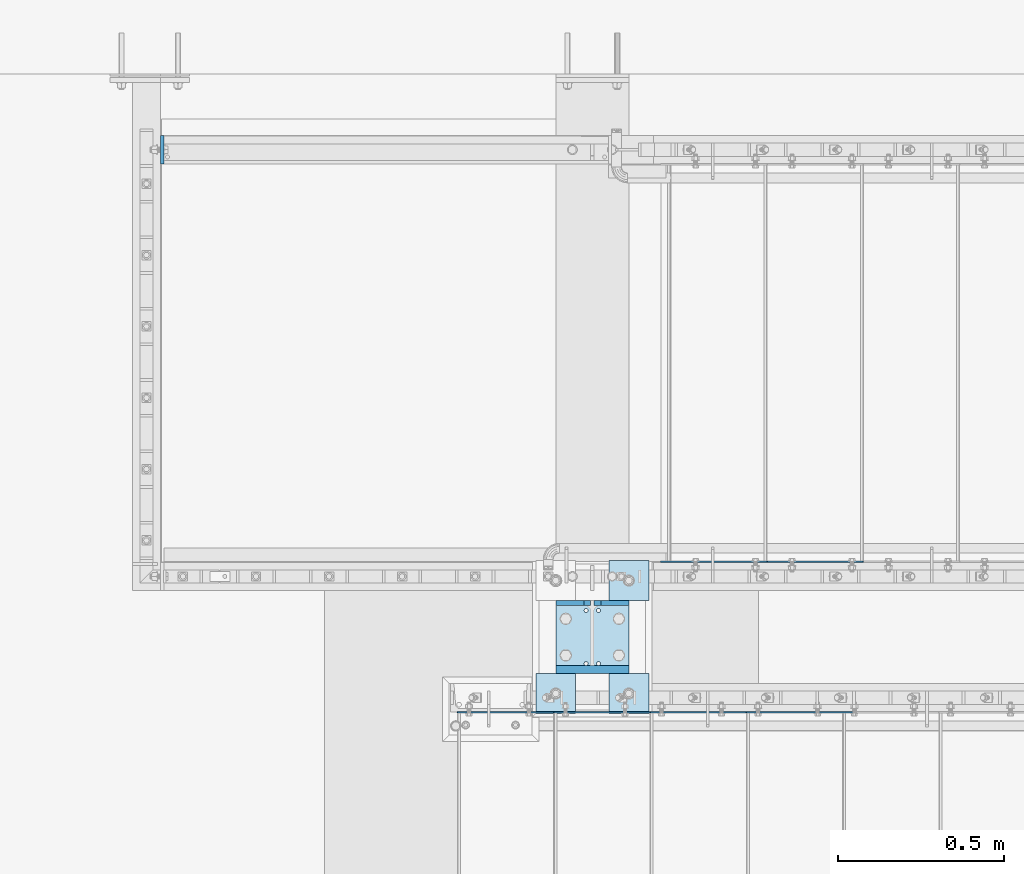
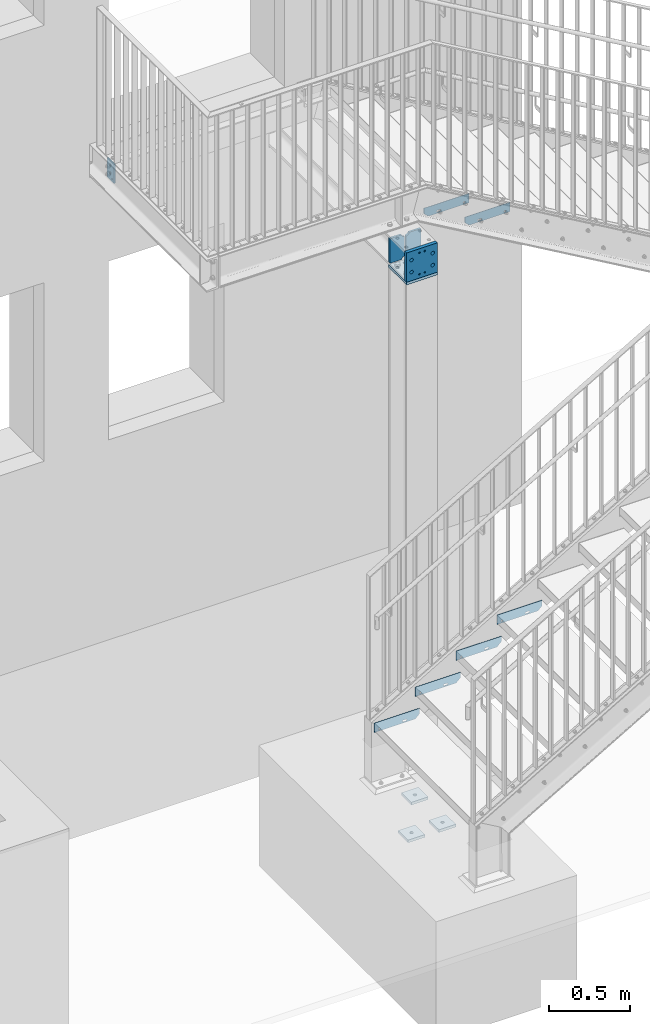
# One storey, part 20 of 145: 14 plates, 44 openings.
"""IFC2X3 building model written with IfcOpenShell, lengths in millimetres."""

from ifc_helpers import new_model, entity, si_unit, converted_unit, point, frame, frame_2d, origin, origin_with_axes, origin_2d_with_axis, place, context, project, spatial, polyline, circle_curve, line_curve, trimmed, segment, composite_curve, circle, outline, extrude, material, layer, layer_set, element, save


model = new_model("IFC2X3")

# Units and contexts
model_context = context("Model", 3, precision=1e-09, world=origin_with_axes())
ifc_project = project(units=[si_unit("LENGTHUNIT", "METRE", prefix="MILLI"), si_unit("AREAUNIT", "SQUARE_METRE"), si_unit("VOLUMEUNIT", "CUBIC_METRE"), converted_unit("PLANEANGLEUNIT", "DEGREE", entity("IfcPlaneAngleMeasure", 0.01745329), si_unit("PLANEANGLEUNIT", "RADIAN"), dimensions=[0, 0, 0, 0, 0, 0, 0])], contexts=[model_context])

# Site, building, storey
site_placement = place(None, origin_with_axes())
site = spatial("IfcSite", under=ifc_project, at=site_placement, Name="BZ1 Grund- und Mittelschule 85716 Unterschlei?heim", CompositionType="ELEMENT")
building_placement = place(site_placement, origin_with_axes())
building = spatial("IfcBuilding", under=site, at=building_placement, Name="Struktur 1", CompositionType="ELEMENT")
storey_placement = place(building_placement, origin_with_axes())
storey = spatial("IfcBuildingStorey", under=building, at=storey_placement, Name="Default Storey", CompositionType="ELEMENT", Elevation=0.0)

# Plate, openings
ifc_material = material(Name="S235JR")
ifc_layer_1 = layer(ifc_material, 10.0)
ifc_layer_set_1 = layer_set([ifc_layer_1], Name="S235JR")
plate_1_placement = place(None, frame((15770.84372732, -227.502, 3138.5000004), z_axis=(-1.0, 0.0, 0.0), x_axis=(0.0, -1.0, 0.0)))
plate_1 = element("IfcPlate", 1, at=plate_1_placement, inside=storey, material=ifc_layer_set_1, Name="-", ObjectType="-", context=model_context, shape_type="SweptSolid", body=[
    extrude(outline(polyline([(-42.5, -71.5), (42.5, -71.5), (42.5, 71.5), (-42.5, 71.5), (-42.5, -71.5)])), origin_with_axes(), (0.0, 0.0, -1.0), 10.0),
])
opening_1_placement = place(plate_1_placement, frame((20.0, -58.501, 0.5), z_axis=(0.0, 0.0, 1.0), x_axis=(1.0, 0.0, 0.0)))
element("IfcOpeningElement", 2, at=opening_1_placement, cuts=plate_1, ObjectType="Opening", context=model_context, shape_type="SweptSolid", body=[
    extrude(circle(Radius=6.001, at=frame_2d((0.0, 6.001), x_axis=(1.0, 0.0))), origin(), (0.0, 0.0, -1.0), 11.0),
])
opening_2_placement = place(plate_1_placement, frame((-9.001, 41.5, 0.5), z_axis=(0.0, 0.0, 1.0), x_axis=(1.0, 0.0, 0.0)))
element("IfcOpeningElement", 3, at=opening_2_placement, cuts=plate_1, ObjectType="Opening", context=model_context, shape_type="SweptSolid", body=[
    extrude(circle(Radius=9.001, at=frame_2d((9.001, 0.0), x_axis=(1.0, 0.0))), origin(), (0.0, 0.0, -1.0), 11.0),
])
opening_3_placement = place(plate_1_placement, frame((-9.001, -18.5, 0.5), z_axis=(0.0, 0.0, 1.0), x_axis=(1.0, 0.0, 0.0)))
element("IfcOpeningElement", 4, at=opening_3_placement, cuts=plate_1, ObjectType="Opening", context=model_context, shape_type="SweptSolid", body=[
    extrude(circle(Radius=9.001, at=frame_2d((9.001, 0.0), x_axis=(1.0, 0.0))), origin(), (0.0, 0.0, -1.0), 11.0),
])

# Plate, opening
ifc_layer_2 = layer(ifc_material, 20.0)
ifc_layer_set_2 = layer_set([ifc_layer_2], Name="S235JR")
plate_2_placement = place(None, frame((17180.844727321, -1525.002, -1270.0), z_axis=(0.0, 0.0, 1.0), x_axis=(-1.0, 0.0, 0.0)))
plate_2 = element("IfcPlate", 5, at=plate_2_placement, inside=storey, material=ifc_layer_set_2, Name="-", ObjectType="-", context=model_context, shape_type="SweptSolid", body=[
    extrude(outline(polyline([(-60.0, -60.0), (60.0, -60.0), (60.0, 60.0), (-60.0, 60.0), (-60.0, -60.0)])), origin_with_axes(), (0.0, 0.0, 1.0), 20.0),
])
opening_4_placement = place(plate_2_placement, frame((0.0, 0.0, -0.5), z_axis=(0.0, 0.0, 1.0), x_axis=(1.0, 0.0, 0.0)))
element("IfcOpeningElement", 6, at=opening_4_placement, cuts=plate_2, ObjectType="Opening", context=model_context, shape_type="SweptSolid", body=[
    extrude(circle(Radius=11.001, at=origin_2d_with_axis()), origin(), (0.0, 0.0, 1.0), 21.0),
])

plate_3_placement = place(None, frame((16960.844727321, -1865.002, -1270.0), z_axis=(0.0, 0.0, 1.0), x_axis=(-1.0, 0.0, 0.0)))
plate_3 = element("IfcPlate", 7, at=plate_3_placement, inside=storey, material=ifc_layer_set_2, Name="-", ObjectType="-", context=model_context, shape_type="SweptSolid", body=[
    extrude(outline(polyline([(-60.0, -60.0), (60.0, -60.0), (60.0, 60.0), (-60.0, 60.0), (-60.0, -60.0)])), origin_with_axes(), (0.0, 0.0, 1.0), 20.0),
])
opening_5_placement = place(plate_3_placement, frame((0.0, 0.0, -0.5), z_axis=(0.0, 0.0, 1.0), x_axis=(1.0, 0.0, 0.0)))
element("IfcOpeningElement", 8, at=opening_5_placement, cuts=plate_3, ObjectType="Opening", context=model_context, shape_type="SweptSolid", body=[
    extrude(circle(Radius=11.001, at=origin_2d_with_axis()), origin(), (0.0, 0.0, 1.0), 21.0),
])

plate_4_placement = place(None, frame((17180.844727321, -1865.002, -1270.0), z_axis=(0.0, 0.0, 1.0), x_axis=(-1.0, 0.0, 0.0)))
plate_4 = element("IfcPlate", 9, at=plate_4_placement, inside=storey, material=ifc_layer_set_2, Name="-", ObjectType="-", context=model_context, shape_type="SweptSolid", body=[
    extrude(outline(polyline([(-60.0, -60.0), (60.0, -60.0), (60.0, 60.0), (-60.0, 60.0), (-60.0, -60.0)])), origin_with_axes(), (0.0, 0.0, 1.0), 20.0),
])
opening_6_placement = place(plate_4_placement, frame((0.0, 0.0, -0.5), z_axis=(0.0, 0.0, 1.0), x_axis=(1.0, 0.0, 0.0)))
element("IfcOpeningElement", 10, at=opening_6_placement, cuts=plate_4, ObjectType="Opening", context=model_context, shape_type="SweptSolid", body=[
    extrude(circle(Radius=11.001, at=origin_2d_with_axis()), origin(), (0.0, 0.0, 1.0), 21.0),
])

# Plate, openings
plate_5_placement = place(None, frame((17070.84472732, -1695.002, 2820.0), z_axis=(0.0, 0.0, 1.0), x_axis=(1.0, 0.0, 0.0)))
plate_5 = element("IfcPlate", 11, at=plate_5_placement, inside=storey, material=ifc_layer_set_2, Name="-", ObjectType="-", context=model_context, shape_type="SweptSolid", body=[
    extrude(outline(polyline([(-110.0, -110.0), (110.0, -110.0), (110.0, 110.0), (-110.0, 110.0), (-110.0, -110.0)])), origin_with_axes(), (0.0, 0.0, 1.0), 20.0),
])
opening_7_placement = place(plate_5_placement, frame((22.75, 76.0, 20.5), z_axis=(0.0, 0.0, -1.0), x_axis=(0.0, 1.0, 0.0)))
element("IfcOpeningElement", 12, at=opening_7_placement, cuts=plate_5, ObjectType="Opening", context=model_context, shape_type="SweptSolid", body=[
    extrude(circle(Radius=6.001, at=frame_2d((4.0, -4.0), x_axis=(1.0, 0.0))), origin(), (0.0, 0.0, 1.0), 21.0),
])
opening_8_placement = place(plate_5_placement, frame((22.75, -76.0, 20.5), z_axis=(0.0, 0.0, -1.0), x_axis=(0.0, 1.0, 0.0)))
element("IfcOpeningElement", 13, at=opening_8_placement, cuts=plate_5, ObjectType="Opening", context=model_context, shape_type="SweptSolid", body=[
    extrude(circle(Radius=6.001, at=frame_2d((-4.0, -4.0), x_axis=(1.0, 0.0))), origin(), (0.0, 0.0, 1.0), 21.0),
])
opening_9_placement = place(plate_5_placement, frame((-22.75, -76.0, 20.5), z_axis=(0.0, 0.0, -1.0), x_axis=(0.0, 1.0, 0.0)))
element("IfcOpeningElement", 14, at=opening_9_placement, cuts=plate_5, ObjectType="Opening", context=model_context, shape_type="SweptSolid", body=[
    extrude(circle(Radius=6.001, at=frame_2d((-4.0, 4.0), x_axis=(1.0, 0.0))), origin(), (0.0, 0.0, 1.0), 21.0),
])
opening_10_placement = place(plate_5_placement, frame((-22.75, 76.0, 20.5), z_axis=(0.0, 0.0, -1.0), x_axis=(0.0, 1.0, 0.0)))
element("IfcOpeningElement", 15, at=opening_10_placement, cuts=plate_5, ObjectType="Opening", context=model_context, shape_type="SweptSolid", body=[
    extrude(circle(Radius=6.001, at=frame_2d((4.0, 4.0), x_axis=(1.0, 0.0))), origin(), (0.0, 0.0, 1.0), 21.0),
])
opening_11_placement = place(plate_5_placement, frame((0.0, 0.0, -0.5), z_axis=(0.0, 0.0, 1.0), x_axis=(0.0, -1.0, 0.0)))
element("IfcOpeningElement", 16, at=opening_11_placement, cuts=plate_5, ObjectType="Opening", context=model_context, shape_type="SweptSolid", body=[
    extrude(circle(Radius=11.001, at=frame_2d((55.0, 80.0), x_axis=(1.0, 0.0))), origin(), (0.0, 0.0, 1.0), 21.0),
])
opening_12_placement = place(plate_5_placement, frame((0.0, 0.0, -0.5), z_axis=(0.0, 0.0, 1.0), x_axis=(0.0, -1.0, 0.0)))
element("IfcOpeningElement", 17, at=opening_12_placement, cuts=plate_5, ObjectType="Opening", context=model_context, shape_type="SweptSolid", body=[
    extrude(circle(Radius=11.001, at=frame_2d((-55.0, 80.0), x_axis=(1.0, 0.0))), origin(), (0.0, 0.0, 1.0), 21.0),
])
opening_13_placement = place(plate_5_placement, frame((0.0, 0.0, -0.5), z_axis=(0.0, 0.0, 1.0), x_axis=(0.0, -1.0, 0.0)))
element("IfcOpeningElement", 18, at=opening_13_placement, cuts=plate_5, ObjectType="Opening", context=model_context, shape_type="SweptSolid", body=[
    extrude(circle(Radius=11.001, at=frame_2d((55.0, -80.0), x_axis=(1.0, 0.0))), origin(), (0.0, 0.0, 1.0), 21.0),
])
opening_14_placement = place(plate_5_placement, frame((0.0, 0.0, -0.5), z_axis=(0.0, 0.0, 1.0), x_axis=(0.0, -1.0, 0.0)))
element("IfcOpeningElement", 19, at=opening_14_placement, cuts=plate_5, ObjectType="Opening", context=model_context, shape_type="SweptSolid", body=[
    extrude(circle(Radius=11.001, at=frame_2d((-55.0, -80.0), x_axis=(1.0, 0.0))), origin(), (0.0, 0.0, 1.0), 21.0),
])

ifc_layer_3 = layer(ifc_material, 3.0)
ifc_layer_set_3 = layer_set([ifc_layer_3], Name="S235JR")
plate_6_placement = place(None, frame((17114.545399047, -1920.002, -157.727271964), z_axis=(0.0, -1.0, 0.0), x_axis=(0.0, 0.0, -1.0)))
plate_6 = element("IfcPlate", 20, at=plate_6_placement, inside=storey, material=ifc_layer_set_3, Name="-", ObjectType="-", context=model_context, shape_type="SweptSolid", body=[
    extrude(outline(polyline([(-35.0, -160.0), (35.0, -160.0), (35.0, 160.0), (-35.0, 160.0), (-35.0, -160.0)])), origin_with_axes(), (0.0, 0.0, 1.0), 3.0),
])
opening_15_placement = place(plate_6_placement, frame((0.0, 7.5, -0.001), z_axis=(0.0, 0.0, 1.0), x_axis=(1.0, 0.0, 0.0)))
element("IfcOpeningElement", 21, at=opening_15_placement, cuts=plate_6, ObjectType="Opening", context=model_context, shape_type="SweptSolid", body=[
    extrude(outline(polyline([(5.0, 152.5), (35.0, 122.5), (35.0, 152.5), (5.0, 152.5)])), origin(), (0.0, 0.0, 1.0), 3.002),
])
opening_16_placement = place(plate_6_placement, frame((13.499, 45.5, -0.5), z_axis=(0.0, 0.0, -1.0), x_axis=(0.0, 1.0, 0.0)))
element("IfcOpeningElement", 22, at=opening_16_placement, cuts=plate_6, ObjectType="Opening", context=model_context, shape_type="SweptSolid", body=[
    extrude(outline(composite_curve([segment(trimmed(line_curve((0.0, 0.0), (1.0, 0.0), 19.0), [point((0.0, 0.0))], [point((19.0, 0.0))], True, "CARTESIAN"), True, "CONTINUOUS"), segment(trimmed(circle_curve(frame_2d((19.0, 6.501), x_axis=(1.0, 0.0)), 6.501), [point((19.0, 0.0))], [point((19.0, 13.002))], True, "CARTESIAN"), True, "CONTINUOUS"), segment(trimmed(line_curve((19.0, 13.002), (-1.0, 0.0), 19.0), [point((19.0, 13.002))], [point((0.0, 13.002))], True, "CARTESIAN"), True, "CONTINUOUS"), segment(trimmed(circle_curve(frame_2d((0.0, 6.501), x_axis=(1.0, 0.0)), 6.501), [point((0.0, 13.002))], [point((0.0, 0.0))], True, "CARTESIAN"), True, "CONTINUOUS")], self_intersect=False)), origin(), (0.0, 0.0, -1.0), 4.0),
])
opening_17_placement = place(plate_6_placement, frame((26.501, -125.0, -0.5), z_axis=(0.0, 0.0, -1.0), x_axis=(-1.0, 0.0, 0.0)))
element("IfcOpeningElement", 23, at=opening_17_placement, cuts=plate_6, ObjectType="Opening", context=model_context, shape_type="SweptSolid", body=[
    extrude(circle(Radius=6.501, at=frame_2d((6.501, 0.0), x_axis=(1.0, 0.0))), origin(), (0.0, 0.0, -1.0), 4.0),
])

plate_7_placement = place(None, frame((16824.545399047, -1920.002, -326.3636356), z_axis=(0.0, -1.0, 0.0), x_axis=(0.0, 0.0, -1.0)))
plate_7 = element("IfcPlate", 24, at=plate_7_placement, inside=storey, material=ifc_layer_set_3, Name="-", ObjectType="-", context=model_context, shape_type="SweptSolid", body=[
    extrude(outline(polyline([(-35.0, -160.0), (35.0, -160.0), (35.0, 160.0), (-35.0, 160.0), (-35.0, -160.0)])), origin_with_axes(), (0.0, 0.0, 1.0), 3.0),
])
opening_18_placement = place(plate_7_placement, frame((0.0, 7.5, -0.001), z_axis=(0.0, 0.0, 1.0), x_axis=(1.0, 0.0, 0.0)))
element("IfcOpeningElement", 25, at=opening_18_placement, cuts=plate_7, ObjectType="Opening", context=model_context, shape_type="SweptSolid", body=[
    extrude(outline(polyline([(5.0, 152.5), (35.0, 122.5), (35.0, 152.5), (5.0, 152.5)])), origin(), (0.0, 0.0, 1.0), 3.002),
])
opening_19_placement = place(plate_7_placement, frame((26.501, -125.0, -0.5), z_axis=(0.0, 0.0, -1.0), x_axis=(-1.0, 0.0, 0.0)))
element("IfcOpeningElement", 26, at=opening_19_placement, cuts=plate_7, ObjectType="Opening", context=model_context, shape_type="SweptSolid", body=[
    extrude(circle(Radius=6.501, at=frame_2d((6.501, 0.0), x_axis=(1.0, 0.0))), origin(), (0.0, 0.0, -1.0), 4.0),
])
opening_20_placement = place(plate_7_placement, frame((13.499, 45.5, -0.5), z_axis=(0.0, 0.0, -1.0), x_axis=(0.0, 1.0, 0.0)))
element("IfcOpeningElement", 27, at=opening_20_placement, cuts=plate_7, ObjectType="Opening", context=model_context, shape_type="SweptSolid", body=[
    extrude(outline(composite_curve([segment(trimmed(line_curve((0.0, 0.0), (1.0, 0.0), 19.0), [point((0.0, 0.0))], [point((19.0, 0.0))], True, "CARTESIAN"), True, "CONTINUOUS"), segment(trimmed(circle_curve(frame_2d((19.0, 6.501), x_axis=(1.0, 0.0)), 6.501), [point((19.0, 0.0))], [point((19.0, 13.002))], True, "CARTESIAN"), True, "CONTINUOUS"), segment(trimmed(line_curve((19.0, 13.002), (-1.0, 0.0), 19.0), [point((19.0, 13.002))], [point((0.0, 13.002))], True, "CARTESIAN"), True, "CONTINUOUS"), segment(trimmed(circle_curve(frame_2d((0.0, 6.501), x_axis=(1.0, 0.0)), 6.501), [point((0.0, 13.002))], [point((0.0, 0.0))], True, "CARTESIAN"), True, "CONTINUOUS")], self_intersect=False)), origin(), (0.0, 0.0, -1.0), 4.0),
])

plate_8_placement = place(None, frame((17404.545399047, -1920.002, 10.909091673), z_axis=(0.0, -1.0, 0.0), x_axis=(0.0, 0.0, -1.0)))
plate_8 = element("IfcPlate", 28, at=plate_8_placement, inside=storey, material=ifc_layer_set_3, Name="-", ObjectType="-", context=model_context, shape_type="SweptSolid", body=[
    extrude(outline(polyline([(-35.0, -160.0), (35.0, -160.0), (35.0, 160.0), (-35.0, 160.0), (-35.0, -160.0)])), origin_with_axes(), (0.0, 0.0, 1.0), 3.0),
])
opening_21_placement = place(plate_8_placement, frame((0.0, 7.5, -0.001), z_axis=(0.0, 0.0, 1.0), x_axis=(1.0, 0.0, 0.0)))
element("IfcOpeningElement", 29, at=opening_21_placement, cuts=plate_8, ObjectType="Opening", context=model_context, shape_type="SweptSolid", body=[
    extrude(outline(polyline([(5.0, 152.5), (35.0, 122.5), (35.0, 152.5), (5.0, 152.5)])), origin(), (0.0, 0.0, 1.0), 3.002),
])
opening_22_placement = place(plate_8_placement, frame((13.499, 45.5, -0.5), z_axis=(0.0, 0.0, -1.0), x_axis=(0.0, 1.0, 0.0)))
element("IfcOpeningElement", 30, at=opening_22_placement, cuts=plate_8, ObjectType="Opening", context=model_context, shape_type="SweptSolid", body=[
    extrude(outline(composite_curve([segment(trimmed(line_curve((0.0, 0.0), (1.0, 0.0), 19.0), [point((0.0, 0.0))], [point((19.0, 0.0))], True, "CARTESIAN"), True, "CONTINUOUS"), segment(trimmed(circle_curve(frame_2d((19.0, 6.501), x_axis=(1.0, 0.0)), 6.501), [point((19.0, 0.0))], [point((19.0, 13.002))], True, "CARTESIAN"), True, "CONTINUOUS"), segment(trimmed(line_curve((19.0, 13.002), (-1.0, 0.0), 19.0), [point((19.0, 13.002))], [point((0.0, 13.002))], True, "CARTESIAN"), True, "CONTINUOUS"), segment(trimmed(circle_curve(frame_2d((0.0, 6.501), x_axis=(1.0, 0.0)), 6.501), [point((0.0, 13.002))], [point((0.0, 0.0))], True, "CARTESIAN"), True, "CONTINUOUS")], self_intersect=False)), origin(), (0.0, 0.0, -1.0), 4.0),
])
opening_23_placement = place(plate_8_placement, frame((26.501, -125.0, -0.5), z_axis=(0.0, 0.0, -1.0), x_axis=(-1.0, 0.0, 0.0)))
element("IfcOpeningElement", 31, at=opening_23_placement, cuts=plate_8, ObjectType="Opening", context=model_context, shape_type="SweptSolid", body=[
    extrude(circle(Radius=6.501, at=frame_2d((6.501, 0.0), x_axis=(1.0, 0.0))), origin(), (0.0, 0.0, -1.0), 4.0),
])

plate_9_placement = place(None, frame((17694.545399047, -1920.002, 179.545455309), z_axis=(0.0, -1.0, 0.0), x_axis=(0.0, 0.0, -1.0)))
plate_9 = element("IfcPlate", 32, at=plate_9_placement, inside=storey, material=ifc_layer_set_3, Name="-", ObjectType="-", context=model_context, shape_type="SweptSolid", body=[
    extrude(outline(polyline([(-35.0, -160.0), (35.0, -160.0), (35.0, 160.0), (-35.0, 160.0), (-35.0, -160.0)])), origin_with_axes(), (0.0, 0.0, 1.0), 3.0),
])
opening_24_placement = place(plate_9_placement, frame((0.0, 7.5, -0.001), z_axis=(0.0, 0.0, 1.0), x_axis=(1.0, 0.0, 0.0)))
element("IfcOpeningElement", 33, at=opening_24_placement, cuts=plate_9, ObjectType="Opening", context=model_context, shape_type="SweptSolid", body=[
    extrude(outline(polyline([(5.0, 152.5), (35.0, 122.5), (35.0, 152.5), (5.0, 152.5)])), origin(), (0.0, 0.0, 1.0), 3.002),
])
opening_25_placement = place(plate_9_placement, frame((26.501, -125.0, -0.5), z_axis=(0.0, 0.0, -1.0), x_axis=(-1.0, 0.0, 0.0)))
element("IfcOpeningElement", 34, at=opening_25_placement, cuts=plate_9, ObjectType="Opening", context=model_context, shape_type="SweptSolid", body=[
    extrude(circle(Radius=6.501, at=frame_2d((6.501, 0.0), x_axis=(1.0, 0.0))), origin(), (0.0, 0.0, -1.0), 4.0),
])
opening_26_placement = place(plate_9_placement, frame((13.499, 45.5, -0.5), z_axis=(0.0, 0.0, -1.0), x_axis=(0.0, 1.0, 0.0)))
element("IfcOpeningElement", 35, at=opening_26_placement, cuts=plate_9, ObjectType="Opening", context=model_context, shape_type="SweptSolid", body=[
    extrude(outline(composite_curve([segment(trimmed(line_curve((0.0, 0.0), (1.0, 0.0), 19.0), [point((0.0, 0.0))], [point((19.0, 0.0))], True, "CARTESIAN"), True, "CONTINUOUS"), segment(trimmed(circle_curve(frame_2d((19.0, 6.501), x_axis=(1.0, 0.0)), 6.501), [point((19.0, 0.0))], [point((19.0, 13.002))], True, "CARTESIAN"), True, "CONTINUOUS"), segment(trimmed(line_curve((19.0, 13.002), (-1.0, 0.0), 19.0), [point((19.0, 13.002))], [point((0.0, 13.002))], True, "CARTESIAN"), True, "CONTINUOUS"), segment(trimmed(circle_curve(frame_2d((0.0, 6.501), x_axis=(1.0, 0.0)), 6.501), [point((0.0, 13.002))], [point((0.0, 0.0))], True, "CARTESIAN"), True, "CONTINUOUS")], self_intersect=False)), origin(), (0.0, 0.0, -1.0), 4.0),
])

plate_10_placement = place(None, frame((17727.1419848, -1470.002, 2877.727273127), z_axis=(0.0, 1.0, 0.0), x_axis=(0.0, 0.0, -1.0)))
plate_10 = element("IfcPlate", 36, at=plate_10_placement, inside=storey, material=ifc_layer_set_3, Name="-", ObjectType="-", context=model_context, shape_type="SweptSolid", body=[
    extrude(outline(polyline([(-35.0, -160.0), (35.0, -160.0), (35.0, 160.0), (-35.0, 160.0), (-35.0, -160.0)])), origin_with_axes(), (0.0, 0.0, 1.0), 3.0),
])
opening_27_placement = place(plate_10_placement, frame((0.0, 7.5, -0.001), z_axis=(0.0, 0.0, 1.0), x_axis=(1.0, 0.0, 0.0)))
element("IfcOpeningElement", 37, at=opening_27_placement, cuts=plate_10, ObjectType="Opening", context=model_context, shape_type="SweptSolid", body=[
    extrude(outline(polyline([(5.0, 152.5), (35.0, 122.5), (35.0, 152.5), (5.0, 152.5)])), origin(), (0.0, 0.0, 1.0), 3.002),
])
opening_28_placement = place(plate_10_placement, frame((13.499, 45.5, -0.5), z_axis=(0.0, 0.0, -1.0), x_axis=(0.0, 1.0, 0.0)))
element("IfcOpeningElement", 38, at=opening_28_placement, cuts=plate_10, ObjectType="Opening", context=model_context, shape_type="SweptSolid", body=[
    extrude(outline(composite_curve([segment(trimmed(line_curve((0.0, 0.0), (1.0, 0.0), 19.0), [point((0.0, 0.0))], [point((19.0, 0.0))], True, "CARTESIAN"), True, "CONTINUOUS"), segment(trimmed(circle_curve(frame_2d((19.0, 6.501), x_axis=(1.0, 0.0)), 6.501), [point((19.0, 0.0))], [point((19.0, 13.002))], True, "CARTESIAN"), True, "CONTINUOUS"), segment(trimmed(line_curve((19.0, 13.002), (-1.0, 0.0), 19.0), [point((19.0, 13.002))], [point((0.0, 13.002))], True, "CARTESIAN"), True, "CONTINUOUS"), segment(trimmed(circle_curve(frame_2d((0.0, 6.501), x_axis=(1.0, 0.0)), 6.501), [point((0.0, 13.002))], [point((0.0, 0.0))], True, "CARTESIAN"), True, "CONTINUOUS")], self_intersect=False)), origin(), (0.0, 0.0, -1.0), 4.0),
])
opening_29_placement = place(plate_10_placement, frame((26.501, -125.0, -0.5), z_axis=(0.0, 0.0, -1.0), x_axis=(-1.0, 0.0, 0.0)))
element("IfcOpeningElement", 39, at=opening_29_placement, cuts=plate_10, ObjectType="Opening", context=model_context, shape_type="SweptSolid", body=[
    extrude(circle(Radius=6.501, at=frame_2d((6.501, 0.0), x_axis=(1.0, 0.0))), origin(), (0.0, 0.0, -1.0), 4.0),
])

plate_11_placement = place(None, frame((17437.1419848, -1470.002, 3046.363636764), z_axis=(0.0, 1.0, 0.0), x_axis=(0.0, 0.0, -1.0)))
plate_11 = element("IfcPlate", 40, at=plate_11_placement, inside=storey, material=ifc_layer_set_3, Name="-", ObjectType="-", context=model_context, shape_type="SweptSolid", body=[
    extrude(outline(polyline([(-35.0, -160.0), (35.0, -160.0), (35.0, 160.0), (-35.0, 160.0), (-35.0, -160.0)])), origin_with_axes(), (0.0, 0.0, 1.0), 3.0),
])
opening_30_placement = place(plate_11_placement, frame((0.0, 7.5, -0.001), z_axis=(0.0, 0.0, 1.0), x_axis=(1.0, 0.0, 0.0)))
element("IfcOpeningElement", 41, at=opening_30_placement, cuts=plate_11, ObjectType="Opening", context=model_context, shape_type="SweptSolid", body=[
    extrude(outline(polyline([(5.0, 152.5), (35.0, 122.5), (35.0, 152.5), (5.0, 152.5)])), origin(), (0.0, 0.0, 1.0), 3.002),
])
opening_31_placement = place(plate_11_placement, frame((13.499, 45.5, -0.5), z_axis=(0.0, 0.0, -1.0), x_axis=(0.0, 1.0, 0.0)))
element("IfcOpeningElement", 42, at=opening_31_placement, cuts=plate_11, ObjectType="Opening", context=model_context, shape_type="SweptSolid", body=[
    extrude(outline(composite_curve([segment(trimmed(line_curve((0.0, 0.0), (1.0, 0.0), 19.0), [point((0.0, 0.0))], [point((19.0, 0.0))], True, "CARTESIAN"), True, "CONTINUOUS"), segment(trimmed(circle_curve(frame_2d((19.0, 6.501), x_axis=(1.0, 0.0)), 6.501), [point((19.0, 0.0))], [point((19.0, 13.002))], True, "CARTESIAN"), True, "CONTINUOUS"), segment(trimmed(line_curve((19.0, 13.002), (-1.0, 0.0), 19.0), [point((19.0, 13.002))], [point((0.0, 13.002))], True, "CARTESIAN"), True, "CONTINUOUS"), segment(trimmed(circle_curve(frame_2d((0.0, 6.501), x_axis=(1.0, 0.0)), 6.501), [point((0.0, 13.002))], [point((0.0, 0.0))], True, "CARTESIAN"), True, "CONTINUOUS")], self_intersect=False)), origin(), (0.0, 0.0, -1.0), 4.0),
])
opening_32_placement = place(plate_11_placement, frame((26.501, -125.0, -0.5), z_axis=(0.0, 0.0, -1.0), x_axis=(-1.0, 0.0, 0.0)))
element("IfcOpeningElement", 43, at=opening_32_placement, cuts=plate_11, ObjectType="Opening", context=model_context, shape_type="SweptSolid", body=[
    extrude(circle(Radius=6.501, at=frame_2d((6.501, 0.0), x_axis=(1.0, 0.0))), origin(), (0.0, 0.0, -1.0), 4.0),
])

ifc_layer_4 = layer(ifc_material, 15.0)
ifc_layer_set_4 = layer_set([ifc_layer_4], Name="S235JR")
plate_12_placement = place(None, frame((17180.59472732, -1600.002, 2857.5), z_axis=(0.0, 1.0, 0.0), x_axis=(-1.0, 0.0, 0.0)))
plate_12 = element("IfcPlate", 44, at=plate_12_placement, inside=storey, material=ifc_layer_set_4, Name="Stiffener#1", ObjectType="Stiffener#1", context=model_context, shape_type="SweptSolid", body=[
    extrude(outline(polyline([(0.0, 0.0), (104.0, 0.0), (104.0, 185.0), (0.0, 185.0), (0.0, 0.0)])), origin_with_axes(), (0.0, 0.0, 1.0), 15.0),
])
opening_33_placement = place(plate_12_placement, frame((0.0, 0.0, -0.01), z_axis=(0.0, 0.0, 1.0), x_axis=(1.0, 0.0, 0.0)))
element("IfcOpeningElement", 45, at=opening_33_placement, cuts=plate_12, ObjectType="Opening", context=model_context, shape_type="SweptSolid", body=[
    extrude(outline(composite_curve([segment(trimmed(line_curve((104.0, 185.0), (-1.0, 0.0), 20.0), [point((104.0, 185.0))], [point((84.0, 185.0))], True, "CARTESIAN"), True, "CONTINUOUS"), segment(trimmed(circle_curve(frame_2d((104.0, 185.0), x_axis=(1.0, 0.0)), 20.0), [point((84.0, 185.0))], [point((104.0, 165.0))], True, "CARTESIAN"), True, "CONTINUOUS"), segment(trimmed(line_curve((104.0, 165.0), (0.0, 1.0), 20.0), [point((104.0, 165.0))], [point((104.0, 185.0))], True, "CARTESIAN"), True, "CONTINUOUS")], self_intersect=False)), origin(), (0.0, 0.0, 1.0), 15.02),
])
opening_34_placement = place(plate_12_placement, frame((0.0, 0.0, -0.01), z_axis=(0.0, 0.0, 1.0), x_axis=(1.0, 0.0, 0.0)))
element("IfcOpeningElement", 46, at=opening_34_placement, cuts=plate_12, ObjectType="Opening", context=model_context, shape_type="SweptSolid", body=[
    extrude(outline(composite_curve([segment(trimmed(line_curve((104.0, 0.0), (0.0, 1.0), 20.0), [point((104.0, 0.0))], [point((104.0, 20.0))], True, "CARTESIAN"), True, "CONTINUOUS"), segment(trimmed(circle_curve(frame_2d((104.0, 0.0), x_axis=(1.0, 0.0)), 20.0), [point((104.0, 20.0))], [point((84.0, 0.0))], True, "CARTESIAN"), True, "CONTINUOUS"), segment(trimmed(line_curve((84.0, 0.0), (1.0, 0.0), 20.0), [point((84.0, 0.0))], [point((104.0, 0.0))], True, "CARTESIAN"), True, "CONTINUOUS")], self_intersect=False)), origin(), (0.0, 0.0, 1.0), 15.02),
])

plate_13_placement = place(None, frame((17065.09472732, -1600.002, 2857.5), z_axis=(0.0, 1.0, 0.0), x_axis=(-1.0, 0.0, 0.0)))
plate_13 = element("IfcPlate", 47, at=plate_13_placement, inside=storey, material=ifc_layer_set_4, Name="Stiffener#0", ObjectType="Stiffener#0", context=model_context, shape_type="SweptSolid", body=[
    extrude(outline(polyline([(0.0, 0.0), (104.0, 0.0), (104.0, 185.0), (0.0, 185.0), (0.0, 0.0)])), origin_with_axes(), (0.0, 0.0, 1.0), 15.0),
])
opening_35_placement = place(plate_13_placement, frame((0.0, 0.0, -0.01), z_axis=(0.0, 0.0, 1.0), x_axis=(1.0, 0.0, 0.0)))
element("IfcOpeningElement", 48, at=opening_35_placement, cuts=plate_13, ObjectType="Opening", context=model_context, shape_type="SweptSolid", body=[
    extrude(outline(composite_curve([segment(trimmed(line_curve((0.0, 185.0), (0.0, -1.0), 20.0), [point((0.0, 185.0))], [point((0.0, 165.0))], True, "CARTESIAN"), True, "CONTINUOUS"), segment(trimmed(circle_curve(frame_2d((0.0, 185.0), x_axis=(1.0, 0.0)), 20.0), [point((0.0, 165.0))], [point((20.0, 185.0))], True, "CARTESIAN"), True, "CONTINUOUS"), segment(trimmed(line_curve((20.0, 185.0), (-1.0, 0.0), 20.0), [point((20.0, 185.0))], [point((0.0, 185.0))], True, "CARTESIAN"), True, "CONTINUOUS")], self_intersect=False)), origin(), (0.0, 0.0, 1.0), 15.02),
])
opening_36_placement = place(plate_13_placement, frame((0.0, 0.0, -0.01), z_axis=(0.0, 0.0, 1.0), x_axis=(1.0, 0.0, 0.0)))
element("IfcOpeningElement", 49, at=opening_36_placement, cuts=plate_13, ObjectType="Opening", context=model_context, shape_type="SweptSolid", body=[
    extrude(outline(composite_curve([segment(trimmed(line_curve((0.0, 0.0), (1.0, 0.0), 20.0), [point((0.0, 0.0))], [point((20.0, 0.0))], True, "CARTESIAN"), True, "CONTINUOUS"), segment(trimmed(circle_curve(origin_2d_with_axis(), 20.0), [point((20.0, 0.0))], [point((0.0, 20.0))], True, "CARTESIAN"), True, "CONTINUOUS"), segment(trimmed(line_curve((0.0, 20.0), (0.0, -1.0), 20.0), [point((0.0, 20.0))], [point((0.0, 0.0))], True, "CARTESIAN"), True, "CONTINUOUS")], self_intersect=False)), origin(), (0.0, 0.0, 1.0), 15.02),
])

ifc_layer_5 = layer(ifc_material, 25.0)
ifc_layer_set_5 = layer_set([ifc_layer_5], Name="S235JR")
plate_14_placement = place(None, frame((17070.84472732, -1780.002, 2950.0), z_axis=(0.0, -1.0, 0.0), x_axis=(1.0, 0.0, 0.0)))
plate_14 = element("IfcPlate", 50, at=plate_14_placement, inside=storey, material=ifc_layer_set_5, Name="-", ObjectType="-", context=model_context, shape_type="SweptSolid", body=[
    extrude(outline(polyline([(-110.0, -110.0), (110.0, -110.0), (110.0, 110.0), (-110.0, 110.0), (-110.0, -110.0)])), origin_with_axes(), (0.0, 0.0, 1.0), 25.0),
])
opening_37_placement = place(plate_14_placement, frame((0.0, 0.0, -0.5), z_axis=(0.0, 0.0, 1.0), x_axis=(1.0, 0.0, 0.0)))
element("IfcOpeningElement", 51, at=opening_37_placement, cuts=plate_14, ObjectType="Opening", context=model_context, shape_type="SweptSolid", body=[
    extrude(circle(Radius=13.001, at=frame_2d((75.0, 45.0), x_axis=(1.0, 0.0))), origin(), (0.0, 0.0, 1.0), 26.0),
])
opening_38_placement = place(plate_14_placement, frame((0.0, 0.0, -0.5), z_axis=(0.0, 0.0, 1.0), x_axis=(1.0, 0.0, 0.0)))
element("IfcOpeningElement", 52, at=opening_38_placement, cuts=plate_14, ObjectType="Opening", context=model_context, shape_type="SweptSolid", body=[
    extrude(circle(Radius=13.001, at=frame_2d((-75.0, 45.0), x_axis=(1.0, 0.0))), origin(), (0.0, 0.0, 1.0), 26.0),
])
opening_39_placement = place(plate_14_placement, frame((0.0, 0.0, -0.5), z_axis=(0.0, 0.0, 1.0), x_axis=(1.0, 0.0, 0.0)))
element("IfcOpeningElement", 53, at=opening_39_placement, cuts=plate_14, ObjectType="Opening", context=model_context, shape_type="SweptSolid", body=[
    extrude(circle(Radius=13.001, at=frame_2d((75.0, -45.0), x_axis=(1.0, 0.0))), origin(), (0.0, 0.0, 1.0), 26.0),
])
opening_40_placement = place(plate_14_placement, frame((0.0, 0.0, -0.5), z_axis=(0.0, 0.0, 1.0), x_axis=(1.0, 0.0, 0.0)))
element("IfcOpeningElement", 54, at=opening_40_placement, cuts=plate_14, ObjectType="Opening", context=model_context, shape_type="SweptSolid", body=[
    extrude(circle(Radius=13.001, at=frame_2d((-75.0, -45.0), x_axis=(1.0, 0.0))), origin(), (0.0, 0.0, 1.0), 26.0),
])
opening_41_placement = place(plate_14_placement, frame((22.75, 76.0, 25.5), z_axis=(0.0, 0.0, -1.0), x_axis=(0.0, 1.0, 0.0)))
element("IfcOpeningElement", 55, at=opening_41_placement, cuts=plate_14, ObjectType="Opening", context=model_context, shape_type="SweptSolid", body=[
    extrude(circle(Radius=6.001, at=frame_2d((4.0, -4.0), x_axis=(1.0, 0.0))), origin(), (0.0, 0.0, 1.0), 26.0),
])
opening_42_placement = place(plate_14_placement, frame((22.75, -76.0, 25.5), z_axis=(0.0, 0.0, -1.0), x_axis=(0.0, 1.0, 0.0)))
element("IfcOpeningElement", 56, at=opening_42_placement, cuts=plate_14, ObjectType="Opening", context=model_context, shape_type="SweptSolid", body=[
    extrude(circle(Radius=6.001, at=frame_2d((-4.0, -4.0), x_axis=(1.0, 0.0))), origin(), (0.0, 0.0, 1.0), 26.0),
])
opening_43_placement = place(plate_14_placement, frame((-22.75, -76.0, 25.5), z_axis=(0.0, 0.0, -1.0), x_axis=(0.0, 1.0, 0.0)))
element("IfcOpeningElement", 57, at=opening_43_placement, cuts=plate_14, ObjectType="Opening", context=model_context, shape_type="SweptSolid", body=[
    extrude(circle(Radius=6.001, at=frame_2d((-4.0, 4.0), x_axis=(1.0, 0.0))), origin(), (0.0, 0.0, 1.0), 26.0),
])
opening_44_placement = place(plate_14_placement, frame((-22.75, 76.0, 25.5), z_axis=(0.0, 0.0, -1.0), x_axis=(0.0, 1.0, 0.0)))
element("IfcOpeningElement", 58, at=opening_44_placement, cuts=plate_14, ObjectType="Opening", context=model_context, shape_type="SweptSolid", body=[
    extrude(circle(Radius=6.001, at=frame_2d((4.0, 4.0), x_axis=(1.0, 0.0))), origin(), (0.0, 0.0, 1.0), 26.0),
])

save(model, "model.ifc")
